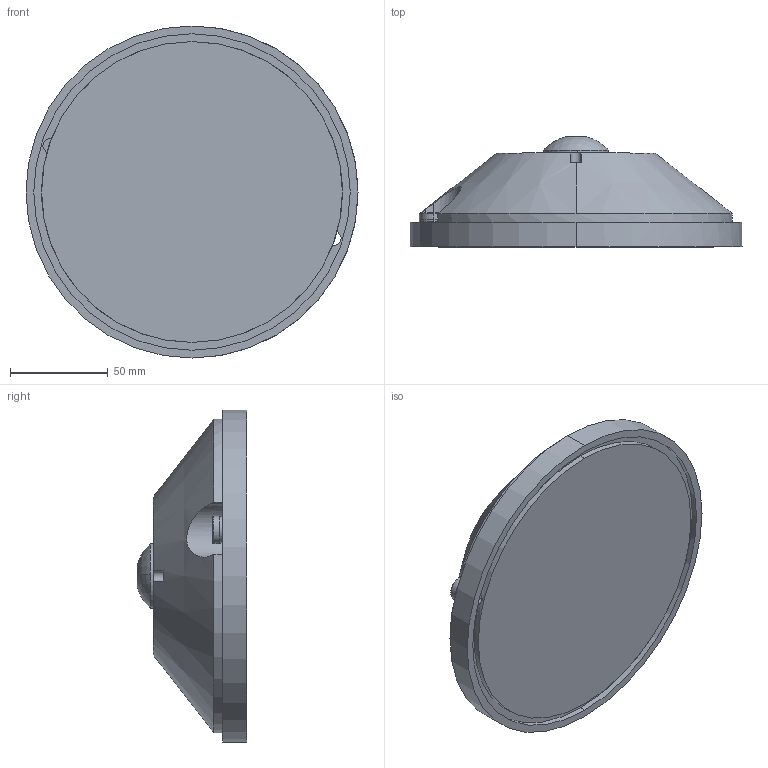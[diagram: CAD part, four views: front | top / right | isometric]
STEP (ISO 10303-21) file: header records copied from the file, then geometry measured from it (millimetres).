
FILE_DESCRIPTION (( 'STEP AP214' ), '1' );
FILE_NAME ('0019622 EZ-0300-170.STEP', '2022-02-28T13:42:07', ( '' ), ( '' ), 'SwSTEP 2.0', 'SolidWorks 2021', '' );
FILE_SCHEMA (( 'AUTOMOTIVE_DESIGN' ));
Length unit declared in the file: millimetre
Products named in the file (1): 0019622 EZ-0300-170
Bounding box: 170 x 56.3 x 170 mm (x, y, z)
Volume: 729852.9 mm3; surface area: 67549.2 mm2
Topology: 3 solids, 3 shells, 165 faces, 415 edges, 241 vertices
Faces by surface type: cylinder 72, cone 44, plane 43, torus 4, sphere 2
Entity records: 6773 total; most frequent: CARTESIAN_POINT 1033, DIRECTION 870, ORIENTED_EDGE 758, EDGE_CURVE 379, AXIS2_PLACEMENT_3D 350, VERTEX_POINT 241, EDGE_LOOP 192, CIRCLE 184
